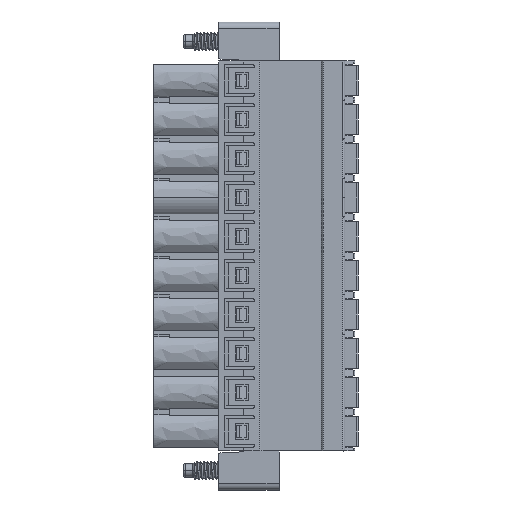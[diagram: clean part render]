
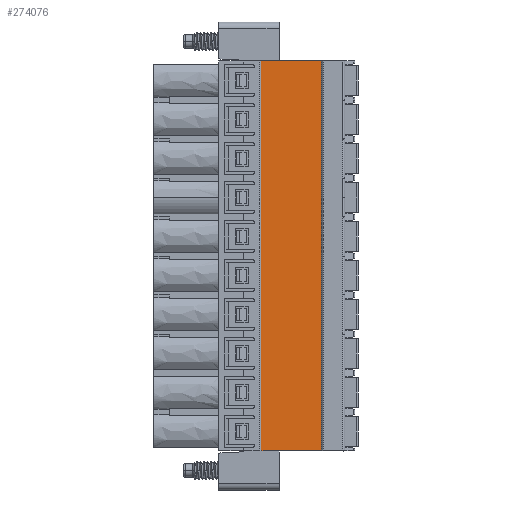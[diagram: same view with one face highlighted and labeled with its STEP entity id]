
A CAD part, front view. The second image highlights one B-rep face of the part: STEP entity #274076.
In plain terms, the highlighted free-form (B-spline) face has degree [1, 1] with [2, 2] control points.
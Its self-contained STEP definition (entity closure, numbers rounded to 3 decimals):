
#274076 = ADVANCED_FACE('',(#274077),#274090,.T.);
#274077 = FACE_BOUND('',#274078,.T.);
#274078 = EDGE_LOOP('',(#274079,#274101,#274116,#274131));
#274079 = ORIENTED_EDGE('',*,*,#274080,.F.);
#274080 = EDGE_CURVE('',#274081,#274083,#274085,.T.);
#274081 = VERTEX_POINT('',#274082);
#274082 = CARTESIAN_POINT('',(5.44,0.23,-40.));
#274083 = VERTEX_POINT('',#274084);
#274084 = CARTESIAN_POINT('',(13.19,0.23,-40.));
#274085 = SURFACE_CURVE('',#274086,(#274089),.PCURVE_S1.);
#274086 = B_SPLINE_CURVE_WITH_KNOTS('',1,(#274087,#274088),
  .UNSPECIFIED.,.F.,.F.,(2,2),(0.,1.),.PIECEWISE_BEZIER_KNOTS.);
#274087 = CARTESIAN_POINT('',(5.44,0.23,-40.));
#274088 = CARTESIAN_POINT('',(13.19,0.23,-40.));
#274089 = PCURVE('',#274090,#274095);
#274090 = B_SPLINE_SURFACE_WITH_KNOTS('',1,1,(
    (#274091,#274092)
    ,(#274093,#274094
    )),.UNSPECIFIED.,.F.,.F.,.F.,(2,2),(2,2),(0.,1.),(0.,1.),
  .PIECEWISE_BEZIER_KNOTS.);
#274091 = CARTESIAN_POINT('',(13.19,0.23,-90.));
#274092 = CARTESIAN_POINT('',(5.44,0.23,-90.));
#274093 = CARTESIAN_POINT('',(13.19,0.23,-40.));
#274094 = CARTESIAN_POINT('',(5.44,0.23,-40.));
#274095 = DEFINITIONAL_REPRESENTATION('',(#274096),#274100);
#274096 = LINE('',#274097,#274098);
#274097 = CARTESIAN_POINT('',(1.,1.));
#274098 = VECTOR('',#274099,1.);
#274099 = DIRECTION('',(0.,-1.));
#274100 = ( GEOMETRIC_REPRESENTATION_CONTEXT(2) 
PARAMETRIC_REPRESENTATION_CONTEXT() REPRESENTATION_CONTEXT('2D SPACE',''
  ) );
#274101 = ORIENTED_EDGE('',*,*,#274102,.T.);
#274102 = EDGE_CURVE('',#274081,#274103,#274105,.T.);
#274103 = VERTEX_POINT('',#274104);
#274104 = CARTESIAN_POINT('',(5.44,0.23,-90.));
#274105 = SURFACE_CURVE('',#274106,(#274109),.PCURVE_S1.);
#274106 = B_SPLINE_CURVE_WITH_KNOTS('',1,(#274107,#274108),
  .UNSPECIFIED.,.F.,.F.,(2,2),(0.,1.),.PIECEWISE_BEZIER_KNOTS.);
#274107 = CARTESIAN_POINT('',(5.44,0.23,-40.));
#274108 = CARTESIAN_POINT('',(5.44,0.23,-90.));
#274109 = PCURVE('',#274090,#274110);
#274110 = DEFINITIONAL_REPRESENTATION('',(#274111),#274115);
#274111 = LINE('',#274112,#274113);
#274112 = CARTESIAN_POINT('',(1.,1.));
#274113 = VECTOR('',#274114,1.);
#274114 = DIRECTION('',(-1.,0.));
#274115 = ( GEOMETRIC_REPRESENTATION_CONTEXT(2) 
PARAMETRIC_REPRESENTATION_CONTEXT() REPRESENTATION_CONTEXT('2D SPACE',''
  ) );
#274116 = ORIENTED_EDGE('',*,*,#274117,.F.);
#274117 = EDGE_CURVE('',#274118,#274103,#274120,.T.);
#274118 = VERTEX_POINT('',#274119);
#274119 = CARTESIAN_POINT('',(13.19,0.23,-90.));
#274120 = SURFACE_CURVE('',#274121,(#274124),.PCURVE_S1.);
#274121 = B_SPLINE_CURVE_WITH_KNOTS('',1,(#274122,#274123),
  .UNSPECIFIED.,.F.,.F.,(2,2),(0.,1.),.PIECEWISE_BEZIER_KNOTS.);
#274122 = CARTESIAN_POINT('',(13.19,0.23,-90.));
#274123 = CARTESIAN_POINT('',(5.44,0.23,-90.));
#274124 = PCURVE('',#274090,#274125);
#274125 = DEFINITIONAL_REPRESENTATION('',(#274126),#274130);
#274126 = LINE('',#274127,#274128);
#274127 = CARTESIAN_POINT('',(0.,0.));
#274128 = VECTOR('',#274129,1.);
#274129 = DIRECTION('',(0.,1.));
#274130 = ( GEOMETRIC_REPRESENTATION_CONTEXT(2) 
PARAMETRIC_REPRESENTATION_CONTEXT() REPRESENTATION_CONTEXT('2D SPACE',''
  ) );
#274131 = ORIENTED_EDGE('',*,*,#274132,.F.);
#274132 = EDGE_CURVE('',#274083,#274118,#274133,.T.);
#274133 = SURFACE_CURVE('',#274134,(#274137),.PCURVE_S1.);
#274134 = B_SPLINE_CURVE_WITH_KNOTS('',1,(#274135,#274136),
  .UNSPECIFIED.,.F.,.F.,(2,2),(0.,1.),.PIECEWISE_BEZIER_KNOTS.);
#274135 = CARTESIAN_POINT('',(13.19,0.23,-40.));
#274136 = CARTESIAN_POINT('',(13.19,0.23,-90.));
#274137 = PCURVE('',#274090,#274138);
#274138 = DEFINITIONAL_REPRESENTATION('',(#274139),#274143);
#274139 = LINE('',#274140,#274141);
#274140 = CARTESIAN_POINT('',(1.,0.));
#274141 = VECTOR('',#274142,1.);
#274142 = DIRECTION('',(-1.,0.));
#274143 = ( GEOMETRIC_REPRESENTATION_CONTEXT(2) 
PARAMETRIC_REPRESENTATION_CONTEXT() REPRESENTATION_CONTEXT('2D SPACE',''
  ) );
